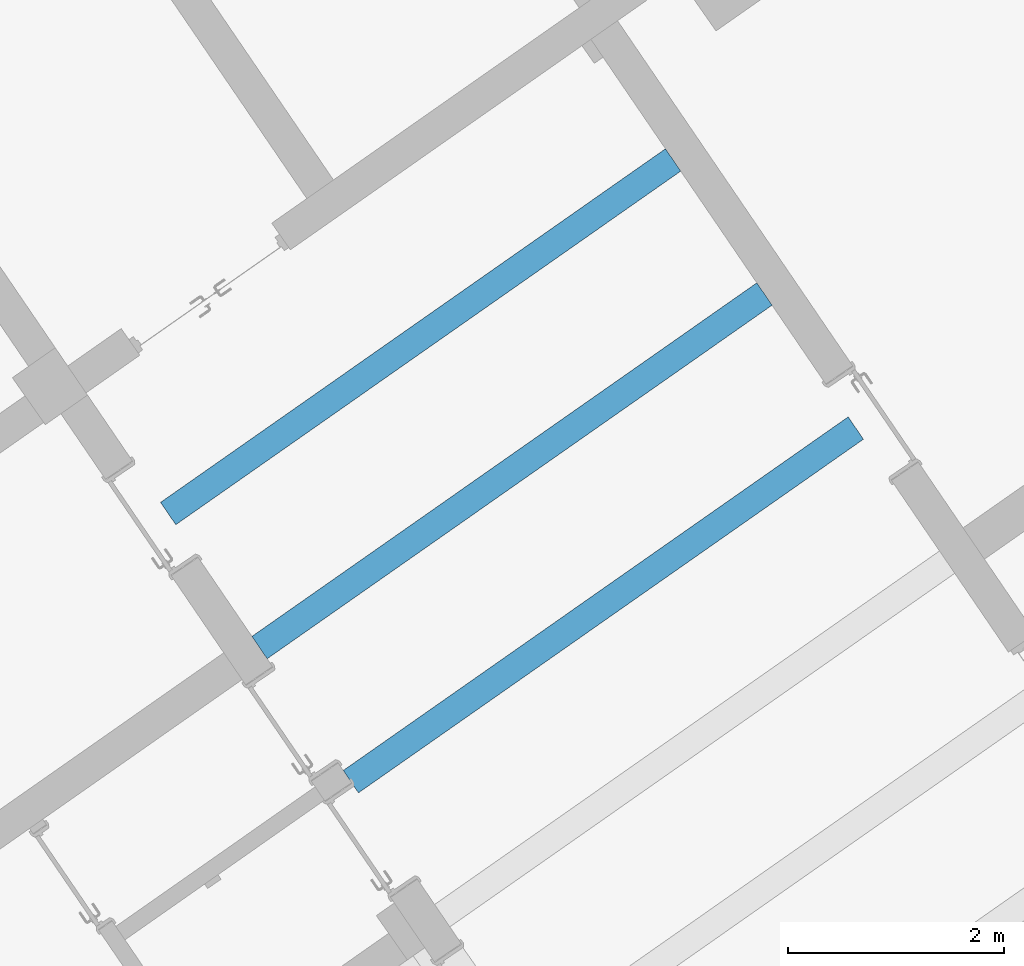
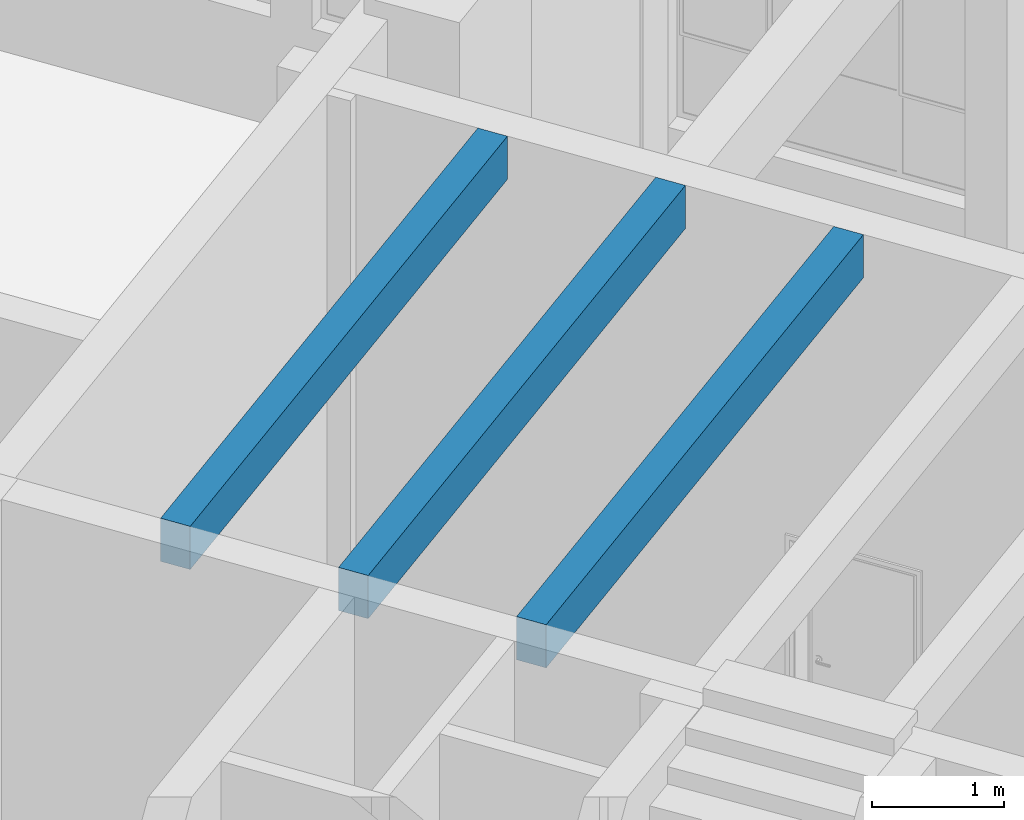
# One storey, part 78 of 157: 3 walls.
"""IFC2X3 building model written with IfcOpenShell, lengths in millimetres."""

from ifc_helpers import new_model, entity, si_unit, converted_unit, derived_unit, direction, frame, origin, place, context, subcontext, project, spatial, polyline, outline, extrude, material, layer, layer_set, layer_usage, type_object, element, save


model = new_model("IFC2X3")

# Units and contexts
model_context = context("Model", 3, precision=0.01, world=origin(), true_north=direction((6.123031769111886e-17, 1.0)))
body_context = subcontext(model_context, "Body", "Model", "MODEL_VIEW")
ifc_project = project(units=[si_unit("LENGTHUNIT", "METRE", prefix="MILLI"), si_unit("AREAUNIT", "SQUARE_METRE"), si_unit("VOLUMEUNIT", "CUBIC_METRE"), converted_unit("PLANEANGLEUNIT", "DEGREE", entity("IfcRatioMeasure", 0.017453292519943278), si_unit("PLANEANGLEUNIT", "RADIAN"), dimensions=[0, 0, 0, 0, 0, 0, 0]), si_unit("MASSUNIT", "GRAM", prefix="KILO"), derived_unit("MASSDENSITYUNIT", [(si_unit("MASSUNIT", "GRAM", prefix="KILO"), 1), (si_unit("LENGTHUNIT", "METRE"), -3)]), derived_unit("MOMENTOFINERTIAUNIT", [(si_unit("LENGTHUNIT", "METRE"), 4)]), si_unit("TIMEUNIT", "SECOND"), si_unit("FREQUENCYUNIT", "HERTZ"), si_unit("THERMODYNAMICTEMPERATUREUNIT", "DEGREE_CELSIUS"), derived_unit("THERMALTRANSMITTANCEUNIT", [(si_unit("MASSUNIT", "GRAM", prefix="KILO"), 1), (si_unit("THERMODYNAMICTEMPERATUREUNIT", "KELVIN"), -1), (si_unit("TIMEUNIT", "SECOND"), -3)]), derived_unit("THERMALCONDUCTANCEUNIT", [(si_unit("MASSUNIT", "GRAM", prefix="KILO"), 1), (si_unit("LENGTHUNIT", "METRE"), 1), (si_unit("THERMODYNAMICTEMPERATUREUNIT", "KELVIN"), -1), (si_unit("TIMEUNIT", "SECOND"), -3)]), derived_unit("VOLUMETRICFLOWRATEUNIT", [(si_unit("LENGTHUNIT", "METRE"), 3), (si_unit("TIMEUNIT", "SECOND"), -1)]), derived_unit("MASSFLOWRATEUNIT", [(si_unit("MASSUNIT", "GRAM", prefix="KILO"), 1), (si_unit("TIMEUNIT", "SECOND"), -1)]), derived_unit("ROTATIONALFREQUENCYUNIT", [(si_unit("TIMEUNIT", "SECOND"), -1)]), si_unit("ELECTRICCURRENTUNIT", "AMPERE"), si_unit("ELECTRICVOLTAGEUNIT", "VOLT"), si_unit("POWERUNIT", "WATT"), converted_unit("FORCEUNIT", "KIP", entity("IfcRatioMeasure", 2.088543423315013e-05), si_unit("FORCEUNIT", "NEWTON"), dimensions=[1, 1, -2, 0, 0, 0, 0]), si_unit("ILLUMINANCEUNIT", "LUX"), si_unit("LUMINOUSFLUXUNIT", "LUMEN"), si_unit("LUMINOUSINTENSITYUNIT", "CANDELA"), derived_unit("USERDEFINED", [(si_unit("MASSUNIT", "GRAM", prefix="KILO"), -1), (si_unit("LENGTHUNIT", "METRE"), -2), (si_unit("TIMEUNIT", "SECOND"), 3), (si_unit("LUMINOUSFLUXUNIT", "LUMEN"), 1)]), derived_unit("USERDEFINED", [(si_unit("MASSUNIT", "GRAM", prefix="KILO"), 1), (si_unit("LENGTHUNIT", "METRE"), 3), (si_unit("TIMEUNIT", "SECOND"), -3), (si_unit("ELECTRICCURRENTUNIT", "AMPERE"), -2)]), derived_unit("USERDEFINED", [(si_unit("LENGTHUNIT", "METRE"), 2), (si_unit("TIMEUNIT", "SECOND"), -2)]), derived_unit("SOUNDPOWERUNIT", [(si_unit("MASSUNIT", "GRAM", prefix="KILO"), 1), (si_unit("LENGTHUNIT", "METRE"), 2), (si_unit("TIMEUNIT", "SECOND"), -3)]), derived_unit("SOUNDPRESSUREUNIT", [(si_unit("MASSUNIT", "GRAM", prefix="KILO"), 1), (si_unit("LENGTHUNIT", "METRE"), -1), (si_unit("TIMEUNIT", "SECOND"), -2)]), derived_unit("LINEARVELOCITYUNIT", [(si_unit("LENGTHUNIT", "METRE"), 1), (si_unit("TIMEUNIT", "SECOND"), -1)]), si_unit("PRESSUREUNIT", "PASCAL"), derived_unit("USERDEFINED", [(si_unit("LENGTHUNIT", "METRE"), -2), (si_unit("MASSUNIT", "GRAM", prefix="KILO"), 1), (si_unit("TIMEUNIT", "SECOND"), -2)]), derived_unit("LINEARFORCEUNIT", [(si_unit("MASSUNIT", "GRAM", prefix="KILO"), 1), (si_unit("LENGTHUNIT", "METRE"), 1), (si_unit("TIMEUNIT", "SECOND"), -2), (si_unit("LENGTHUNIT", "METRE"), -1)]), derived_unit("PLANARFORCEUNIT", [(si_unit("MASSUNIT", "GRAM", prefix="KILO"), 1), (si_unit("LENGTHUNIT", "METRE"), 1), (si_unit("TIMEUNIT", "SECOND"), -2), (si_unit("LENGTHUNIT", "METRE"), -2)]), derived_unit("SPECIFICHEATCAPACITYUNIT", [(si_unit("LENGTHUNIT", "METRE"), 2), (si_unit("TIMEUNIT", "SECOND"), -2), (si_unit("THERMODYNAMICTEMPERATUREUNIT", "KELVIN"), -1)]), derived_unit("VAPORPERMEABILITYUNIT", [(si_unit("TIMEUNIT", "SECOND"), 1), (si_unit("LENGTHUNIT", "METRE"), -1)]), derived_unit("DYNAMICVISCOSITYUNIT", [(si_unit("MASSUNIT", "GRAM", prefix="KILO"), 1), (si_unit("LENGTHUNIT", "METRE"), -1), (si_unit("TIMEUNIT", "SECOND"), -1)]), derived_unit("THERMALEXPANSIONCOEFFICIENTUNIT", [(si_unit("THERMODYNAMICTEMPERATUREUNIT", "KELVIN"), -1)])], contexts=[model_context])

# Site, building, storey
site_placement = place(None, frame((0.0, 0.0, 0.0), z_axis=(0.0, 0.0, 1.0), x_axis=(0.8191520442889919, 0.5735764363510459, 0.0)))
site = spatial("IfcSite", under=ifc_project, at=site_placement, Name="Default", CompositionType="ELEMENT")
building_placement = place(site_placement, origin())
building = spatial("IfcBuilding", under=site, at=building_placement, CompositionType="ELEMENT")
storey_placement = place(building_placement, origin())
storey = spatial("IfcBuildingStorey", under=building, at=storey_placement, Name="1.EG +0.00", CompositionType="ELEMENT", Elevation=-4.331468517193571e-12)

# Walls
ifc_material = material(Name="Analytical Wall Surface_CJC")
ifc_layer = layer(ifc_material, 250.00000000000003)
ifc_layer_set = layer_set([ifc_layer], Name="Basic Wall:Wand_Innen_25")
ifc_layer_usage = layer_usage(ifc_layer_set, "AXIS2", "NEGATIVE", 125.00000000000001)
wall_type = type_object("IfcWallType", Name="Basic Wall:Wand_Innen_25", PredefinedType="STANDARD", material=ifc_layer_set)
wall_1_placement = place(storey_placement, frame((-211051.64022002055, 117196.23737762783, 4750.0), z_axis=(0.0, 0.0, 1.0), x_axis=(-1.0, 0.0, 0.0)))
element("IfcWallStandardCase", 1, at=wall_1_placement, inside=storey, type_object=wall_type, material=ifc_layer_usage, Name="Basic Wall:Wand_Innen_25", ObjectType="Basic Wall:Wand_Innen_25", context=body_context, shape_type="SweptSolid", body=[
    extrude(outline(polyline([(5700.100120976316, -125.0), (5703.282775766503, 125.0), (3.182654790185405, 125.0), (0.0, -125.0), (5700.100120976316, -125.0)])), origin(), (0.0, 0.0, 1.0), 400.0),
])
wall_2_placement = place(storey_placement, frame((-211032.5442912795, 118696.2373776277, 4750.0), z_axis=(0.0, 0.0, 1.0), x_axis=(-1.0, 0.0, 0.0)))
element("IfcWallStandardCase", 2, at=wall_2_placement, inside=storey, type_object=wall_type, material=ifc_layer_usage, Name="Basic Wall:Wand_Innen_25", ObjectType="Basic Wall:Wand_Innen_25", context=body_context, shape_type="SweptSolid", body=[
    extrude(outline(polyline([(5700.100120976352, -125.0), (5703.282775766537, 125.0), (3.182654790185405, 125.0), (0.0, -125.0), (5700.100120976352, -125.0)])), origin(), (0.0, 0.0, 1.0), 400.0),
])
wall_3_placement = place(storey_placement, frame((-211013.44836253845, 120196.23737762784, 4750.0), z_axis=(0.0, 0.0, 1.0), x_axis=(-1.0, 0.0, 0.0)))
element("IfcWallStandardCase", 3, at=wall_3_placement, inside=storey, type_object=wall_type, material=ifc_layer_usage, Name="Basic Wall:Wand_Innen_25", ObjectType="Basic Wall:Wand_Innen_25", context=body_context, shape_type="SweptSolid", body=[
    extrude(outline(polyline([(5700.100120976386, -125.0), (5703.282775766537, 125.0), (3.182654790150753, 125.0), (0.0, -125.0), (5700.100120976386, -125.0)])), origin(), (0.0, 0.0, 1.0), 400.0),
])

save(model, "model.ifc")
